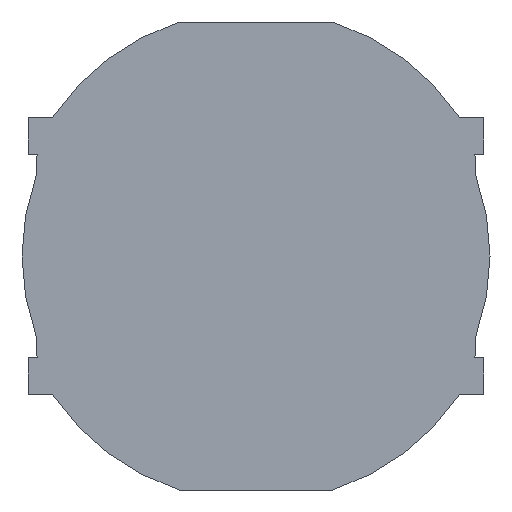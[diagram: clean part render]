
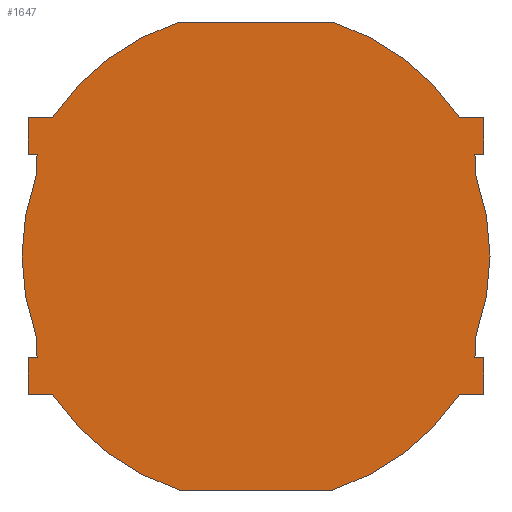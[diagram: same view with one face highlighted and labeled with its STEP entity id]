
A CAD part, front view. The second image highlights one B-rep face of the part: STEP entity #1647.
In plain terms, the highlighted planar face has unit normal (0, -1, 0).
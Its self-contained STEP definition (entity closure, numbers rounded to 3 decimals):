
#24=CARTESIAN_POINT('',(0.,0.,0.));
#25=DIRECTION('',(0.,1.,0.));
#26=DIRECTION('',(0.312,0.,0.95));
#27=AXIS2_PLACEMENT_3D('',#24,#25,#26);
#32=DIRECTION('',(1.,0.,0.));
#33=VECTOR('',#32,0.393);
#34=CARTESIAN_POINT('',(3.307,0.,2.25));
#35=LINE('',#34,#33);
#39=DIRECTION('',(0.,0.,-1.));
#40=VECTOR('',#39,0.6);
#41=CARTESIAN_POINT('',(3.7,0.,2.25));
#42=LINE('',#41,#40);
#46=DIRECTION('',(-1.,0.,0.));
#47=VECTOR('',#46,0.156);
#48=CARTESIAN_POINT('',(3.7,0.,1.65));
#49=LINE('',#48,#47);
#53=DIRECTION('',(-0.466,0.,0.885));
#54=VECTOR('',#53,0.057);
#55=CARTESIAN_POINT('',(3.571,0.,1.6));
#56=LINE('',#55,#54);
#60=DIRECTION('',(0.,0.,1.));
#61=VECTOR('',#60,0.3);
#62=CARTESIAN_POINT('',(3.571,0.,1.3));
#63=LINE('',#62,#61);
#67=CARTESIAN_POINT('',(0.,0.,0.));
#68=DIRECTION('',(0.,1.,0.));
#69=DIRECTION('',(0.94,0.,0.342));
#70=AXIS2_PLACEMENT_3D('',#67,#68,#69);
#75=DIRECTION('',(0.,0.,1.));
#76=VECTOR('',#75,0.3);
#77=CARTESIAN_POINT('',(3.571,0.,-1.6));
#78=LINE('',#77,#76);
#82=DIRECTION('',(0.466,0.,0.885));
#83=VECTOR('',#82,0.057);
#84=CARTESIAN_POINT('',(3.544,0.,-1.65));
#85=LINE('',#84,#83);
#89=DIRECTION('',(1.,0.,0.));
#90=VECTOR('',#89,0.156);
#91=CARTESIAN_POINT('',(3.544,0.,-1.65));
#92=LINE('',#91,#90);
#96=DIRECTION('',(0.,0.,-1.));
#97=VECTOR('',#96,0.6);
#98=CARTESIAN_POINT('',(3.7,0.,-1.65));
#99=LINE('',#98,#97);
#103=DIRECTION('',(-1.,0.,0.));
#104=VECTOR('',#103,0.393);
#105=CARTESIAN_POINT('',(3.7,0.,-2.25));
#106=LINE('',#105,#104);
#110=CARTESIAN_POINT('',(0.,0.,0.));
#111=DIRECTION('',(0.,1.,0.));
#112=DIRECTION('',(0.827,0.,-0.563));
#113=AXIS2_PLACEMENT_3D('',#110,#111,#112);
#118=DIRECTION('',(1.,0.,0.));
#119=VECTOR('',#118,2.498);
#120=CARTESIAN_POINT('',(-1.249,0.,-3.8));
#121=LINE('',#120,#119);
#125=CARTESIAN_POINT('',(0.,0.,0.));
#126=DIRECTION('',(0.,1.,0.));
#127=DIRECTION('',(-0.312,0.,-0.95));
#128=AXIS2_PLACEMENT_3D('',#125,#126,#127);
#133=DIRECTION('',(-1.,0.,0.));
#134=VECTOR('',#133,0.393);
#135=CARTESIAN_POINT('',(-3.307,0.,-2.25));
#136=LINE('',#135,#134);
#140=DIRECTION('',(0.,0.,1.));
#141=VECTOR('',#140,0.6);
#142=CARTESIAN_POINT('',(-3.7,0.,-2.25));
#143=LINE('',#142,#141);
#147=DIRECTION('',(1.,0.,0.));
#148=VECTOR('',#147,0.156);
#149=CARTESIAN_POINT('',(-3.7,0.,-1.65));
#150=LINE('',#149,#148);
#154=DIRECTION('',(0.466,0.,-0.885));
#155=VECTOR('',#154,0.057);
#156=CARTESIAN_POINT('',(-3.571,0.,-1.6));
#157=LINE('',#156,#155);
#161=DIRECTION('',(0.,0.,-1.));
#162=VECTOR('',#161,0.3);
#163=CARTESIAN_POINT('',(-3.571,0.,-1.3));
#164=LINE('',#163,#162);
#168=CARTESIAN_POINT('',(0.,0.,0.));
#169=DIRECTION('',(0.,1.,0.));
#170=DIRECTION('',(-0.94,0.,-0.342));
#171=AXIS2_PLACEMENT_3D('',#168,#169,#170);
#176=DIRECTION('',(0.,0.,-1.));
#177=VECTOR('',#176,0.3);
#178=CARTESIAN_POINT('',(-3.571,0.,1.6));
#179=LINE('',#178,#177);
#183=DIRECTION('',(-0.466,0.,-0.885));
#184=VECTOR('',#183,0.057);
#185=CARTESIAN_POINT('',(-3.544,0.,1.65));
#186=LINE('',#185,#184);
#190=DIRECTION('',(-1.,0.,0.));
#191=VECTOR('',#190,0.156);
#192=CARTESIAN_POINT('',(-3.544,0.,1.65));
#193=LINE('',#192,#191);
#197=DIRECTION('',(0.,0.,1.));
#198=VECTOR('',#197,0.6);
#199=CARTESIAN_POINT('',(-3.7,0.,1.65));
#200=LINE('',#199,#198);
#204=DIRECTION('',(1.,0.,0.));
#205=VECTOR('',#204,0.393);
#206=CARTESIAN_POINT('',(-3.7,0.,2.25));
#207=LINE('',#206,#205);
#211=CARTESIAN_POINT('',(0.,0.,0.));
#212=DIRECTION('',(0.,1.,0.));
#213=DIRECTION('',(-0.827,0.,0.563));
#214=AXIS2_PLACEMENT_3D('',#211,#212,#213);
#219=DIRECTION('',(-1.,0.,0.));
#220=VECTOR('',#219,2.498);
#221=CARTESIAN_POINT('',(1.249,0.,3.8));
#222=LINE('',#221,#220);
#1342=CARTESIAN_POINT('',(3.571,0.,-1.6));
#1344=VERTEX_POINT('',#1342);
#1346=CARTESIAN_POINT('',(3.571,0.,-1.3));
#1348=VERTEX_POINT('',#1346);
#1350=CARTESIAN_POINT('',(3.571,0.,1.3));
#1352=VERTEX_POINT('',#1350);
#1354=CARTESIAN_POINT('',(3.571,0.,1.6));
#1356=VERTEX_POINT('',#1354);
#1358=CARTESIAN_POINT('',(-3.571,0.,1.6));
#1360=VERTEX_POINT('',#1358);
#1362=CARTESIAN_POINT('',(-3.571,0.,1.3));
#1364=VERTEX_POINT('',#1362);
#1366=CARTESIAN_POINT('',(-3.571,0.,-1.3));
#1368=VERTEX_POINT('',#1366);
#1370=CARTESIAN_POINT('',(-3.571,0.,-1.6));
#1372=VERTEX_POINT('',#1370);
#1374=CARTESIAN_POINT('',(-3.7,0.,-2.25));
#1375=CARTESIAN_POINT('',(-3.7,0.,-1.65));
#1376=VERTEX_POINT('',#1374);
#1377=VERTEX_POINT('',#1375);
#1378=CARTESIAN_POINT('',(-3.7,0.,1.65));
#1379=CARTESIAN_POINT('',(-3.7,0.,2.25));
#1380=VERTEX_POINT('',#1378);
#1381=VERTEX_POINT('',#1379);
#1382=CARTESIAN_POINT('',(3.7,0.,-1.65));
#1383=CARTESIAN_POINT('',(3.7,0.,-2.25));
#1384=VERTEX_POINT('',#1382);
#1385=VERTEX_POINT('',#1383);
#1386=CARTESIAN_POINT('',(3.7,0.,2.25));
#1387=CARTESIAN_POINT('',(3.7,0.,1.65));
#1388=VERTEX_POINT('',#1386);
#1389=VERTEX_POINT('',#1387);
#1406=CARTESIAN_POINT('',(-3.307,0.,-2.25));
#1407=VERTEX_POINT('',#1406);
#1408=CARTESIAN_POINT('',(-3.544,0.,-1.65));
#1409=VERTEX_POINT('',#1408);
#1410=CARTESIAN_POINT('',(-3.544,0.,1.65));
#1411=VERTEX_POINT('',#1410);
#1412=CARTESIAN_POINT('',(-3.307,0.,2.25));
#1413=VERTEX_POINT('',#1412);
#1414=CARTESIAN_POINT('',(3.544,0.,-1.65));
#1415=VERTEX_POINT('',#1414);
#1416=CARTESIAN_POINT('',(3.307,0.,-2.25));
#1417=VERTEX_POINT('',#1416);
#1418=CARTESIAN_POINT('',(3.307,0.,2.25));
#1419=VERTEX_POINT('',#1418);
#1420=CARTESIAN_POINT('',(3.544,0.,1.65));
#1421=VERTEX_POINT('',#1420);
#1524=CARTESIAN_POINT('',(1.249,0.,3.8));
#1525=CARTESIAN_POINT('',(-1.249,0.,3.8));
#1526=VERTEX_POINT('',#1524);
#1527=VERTEX_POINT('',#1525);
#1528=CARTESIAN_POINT('',(-1.249,0.,-3.8));
#1529=CARTESIAN_POINT('',(1.249,0.,-3.8));
#1530=VERTEX_POINT('',#1528);
#1531=VERTEX_POINT('',#1529);
#1584=CARTESIAN_POINT('',(0.,0.,0.));
#1585=DIRECTION('',(0.,1.,0.));
#1586=DIRECTION('',(1.,0.,0.));
#1587=AXIS2_PLACEMENT_3D('',#1584,#1585,#1586);
#1588=PLANE('',#1587);
#1590=ORIENTED_EDGE('',*,*,#1589,.T.);
#1592=ORIENTED_EDGE('',*,*,#1591,.T.);
#1594=ORIENTED_EDGE('',*,*,#1593,.T.);
#1596=ORIENTED_EDGE('',*,*,#1595,.T.);
#1598=ORIENTED_EDGE('',*,*,#1597,.F.);
#1600=ORIENTED_EDGE('',*,*,#1599,.F.);
#1602=ORIENTED_EDGE('',*,*,#1601,.T.);
#1604=ORIENTED_EDGE('',*,*,#1603,.F.);
#1606=ORIENTED_EDGE('',*,*,#1605,.F.);
#1608=ORIENTED_EDGE('',*,*,#1607,.T.);
#1610=ORIENTED_EDGE('',*,*,#1609,.T.);
#1612=ORIENTED_EDGE('',*,*,#1611,.T.);
#1614=ORIENTED_EDGE('',*,*,#1613,.T.);
#1616=ORIENTED_EDGE('',*,*,#1615,.F.);
#1618=ORIENTED_EDGE('',*,*,#1617,.T.);
#1620=ORIENTED_EDGE('',*,*,#1619,.T.);
#1622=ORIENTED_EDGE('',*,*,#1621,.T.);
#1624=ORIENTED_EDGE('',*,*,#1623,.T.);
#1626=ORIENTED_EDGE('',*,*,#1625,.F.);
#1628=ORIENTED_EDGE('',*,*,#1627,.F.);
#1630=ORIENTED_EDGE('',*,*,#1629,.T.);
#1632=ORIENTED_EDGE('',*,*,#1631,.F.);
#1634=ORIENTED_EDGE('',*,*,#1633,.F.);
#1636=ORIENTED_EDGE('',*,*,#1635,.T.);
#1638=ORIENTED_EDGE('',*,*,#1637,.T.);
#1640=ORIENTED_EDGE('',*,*,#1639,.T.);
#1642=ORIENTED_EDGE('',*,*,#1641,.T.);
#1644=ORIENTED_EDGE('',*,*,#1643,.F.);
#1645=EDGE_LOOP('',(#1590,#1592,#1594,#1596,#1598,#1600,#1602,#1604,#1606,#1608,
#1610,#1612,#1614,#1616,#1618,#1620,#1622,#1624,#1626,#1628,#1630,#1632,#1634,
#1636,#1638,#1640,#1642,#1644));
#1646=FACE_OUTER_BOUND('',#1645,.F.);
#28=CIRCLE('',#27,4.);
#71=CIRCLE('',#70,3.8);
#114=CIRCLE('',#113,4.);
#129=CIRCLE('',#128,4.);
#172=CIRCLE('',#171,3.8);
#215=CIRCLE('',#214,4.);
#1589=EDGE_CURVE('',#1526,#1419,#28,.T.);
#1591=EDGE_CURVE('',#1419,#1388,#35,.T.);
#1593=EDGE_CURVE('',#1388,#1389,#42,.T.);
#1595=EDGE_CURVE('',#1389,#1421,#49,.T.);
#1597=EDGE_CURVE('',#1356,#1421,#56,.T.);
#1599=EDGE_CURVE('',#1352,#1356,#63,.T.);
#1601=EDGE_CURVE('',#1352,#1348,#71,.T.);
#1603=EDGE_CURVE('',#1344,#1348,#78,.T.);
#1605=EDGE_CURVE('',#1415,#1344,#85,.T.);
#1607=EDGE_CURVE('',#1415,#1384,#92,.T.);
#1609=EDGE_CURVE('',#1384,#1385,#99,.T.);
#1611=EDGE_CURVE('',#1385,#1417,#106,.T.);
#1613=EDGE_CURVE('',#1417,#1531,#114,.T.);
#1615=EDGE_CURVE('',#1530,#1531,#121,.T.);
#1617=EDGE_CURVE('',#1530,#1407,#129,.T.);
#1619=EDGE_CURVE('',#1407,#1376,#136,.T.);
#1621=EDGE_CURVE('',#1376,#1377,#143,.T.);
#1623=EDGE_CURVE('',#1377,#1409,#150,.T.);
#1625=EDGE_CURVE('',#1372,#1409,#157,.T.);
#1627=EDGE_CURVE('',#1368,#1372,#164,.T.);
#1629=EDGE_CURVE('',#1368,#1364,#172,.T.);
#1631=EDGE_CURVE('',#1360,#1364,#179,.T.);
#1633=EDGE_CURVE('',#1411,#1360,#186,.T.);
#1635=EDGE_CURVE('',#1411,#1380,#193,.T.);
#1637=EDGE_CURVE('',#1380,#1381,#200,.T.);
#1639=EDGE_CURVE('',#1381,#1413,#207,.T.);
#1641=EDGE_CURVE('',#1413,#1527,#215,.T.);
#1643=EDGE_CURVE('',#1526,#1527,#222,.T.);
#1647=ADVANCED_FACE('',(#1646),#1588,.F.);
